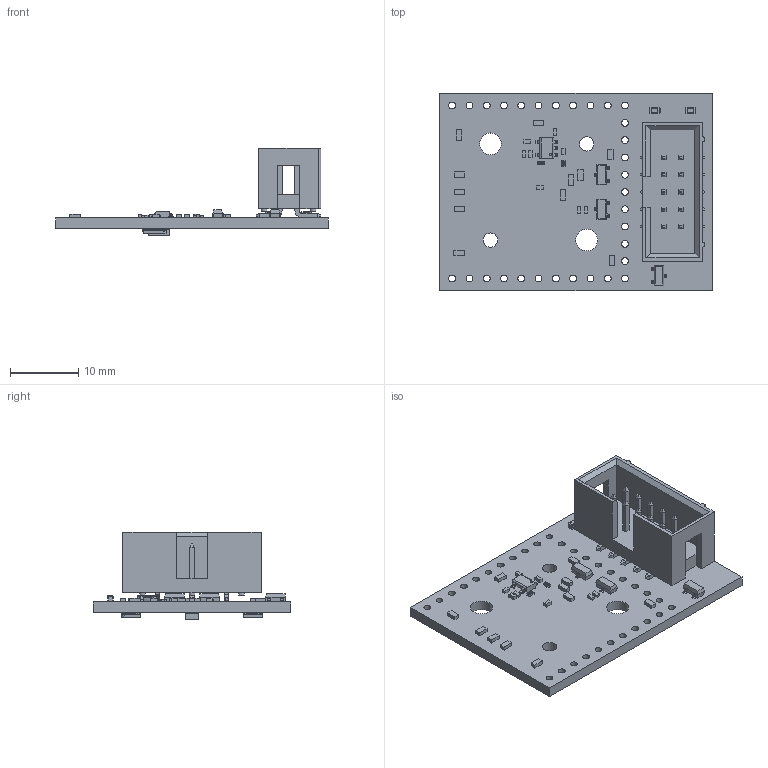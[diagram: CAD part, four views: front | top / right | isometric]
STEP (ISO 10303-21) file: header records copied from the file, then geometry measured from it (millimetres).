
FILE_DESCRIPTION(('Open CASCADE Model'),'2;1');
FILE_NAME('Open CASCADE Shape Model','2019-04-30T14:42:05',('Author'),( 'Open CASCADE'),'Open CASCADE STEP processor 6.8','Open CASCADE 6.8' ,'Unknown');
FILE_SCHEMA(('AUTOMOTIVE_DESIGN { 1 0 10303 214 1 1 1 1 }'));
Products named in the file (1): PCB
Bounding box: 40 x 29 x 12.88 mm (x, y, z)
Volume: 1763.1 mm3; surface area: 4492.2 mm2
Topology: 71 solids, 677 shells, 1930 faces, 6430 edges, 5226 vertices
Faces by surface type: plane 1228, cylinder 632, bspline 54, sphere 16
Full cylindrical faces by diameter (mm): 0.392 x1, 0.85 x6, 1 x31, 2.1 x2, 3.2 x2
Entity records: 80151 total; most frequent: CARTESIAN_POINT 18879, DIRECTION 11314, ORIENTED_EDGE 9892, EDGE_CURVE 6414, VERTEX_POINT 5226, LINE 4756, VECTOR 4756, AXIS2_PLACEMENT_3D 3279
